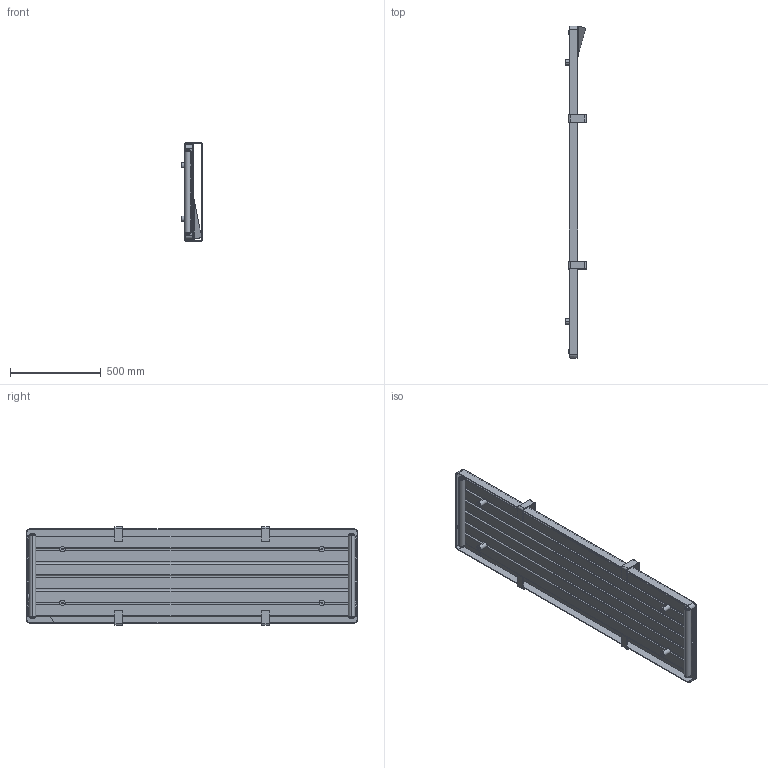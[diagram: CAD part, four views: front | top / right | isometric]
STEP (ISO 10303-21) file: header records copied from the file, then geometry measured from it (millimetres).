
FILE_DESCRIPTION (( 'STEP AP203' ), '1' );
FILE_NAME ('FBOOK18500BP.STEP', '2026-03-03T14:18:47', ( '' ), ( '' ), 'SwSTEP 2.0', 'SolidWorks 2025', '' );
FILE_SCHEMA (( 'CONFIG_CONTROL_DESIGN' ));
Length unit declared in the file: millimetre
Products named in the file (9): BARRA BOOK_545; BU1822; FISSAGGIO BOOK; COLLETTORE INT 75 [Con configurazioni]_455; tappo_sx.prt; tappo_sfiato.prt; COVER BOOK_1830x520; FBOOK18500BP; TRAVERSINO PIATTO 70 [Con configurazioni]_1810
Assembly tree (20 placements, depth 2):
  FBOOK18500BP
    COLLETTORE INT 75 [Con configurazioni]_455  x2
    TRAVERSINO PIATTO 70 [Con configurazioni]_1810  x6
    COVER BOOK_1830x520
    tappo_sx.prt  x3
    tappo_sfiato.prt
    BU1822
    FISSAGGIO BOOK  x4
    BARRA BOOK_545  x2
Bounding box: 112 x 1830.67 x 545 mm (x, y, z)
Volume: 9455547.6 mm3; surface area: 7803848 mm2
Topology: 18 solids, 26 shells, 1017 faces, 2646 edges, 1647 vertices
Faces by surface type: plane 453, cylinder 311, cone 108, bspline 101, torus 44
Entity records: 23250 total; most frequent: CARTESIAN_POINT 13294, ORIENTED_EDGE 2020, DIRECTION 1458, EDGE_CURVE 1014, VERTEX_POINT 625, AXIS2_PLACEMENT_3D 556, B_SPLINE_CURVE_WITH_KNOTS 475, EDGE_LOOP 422
